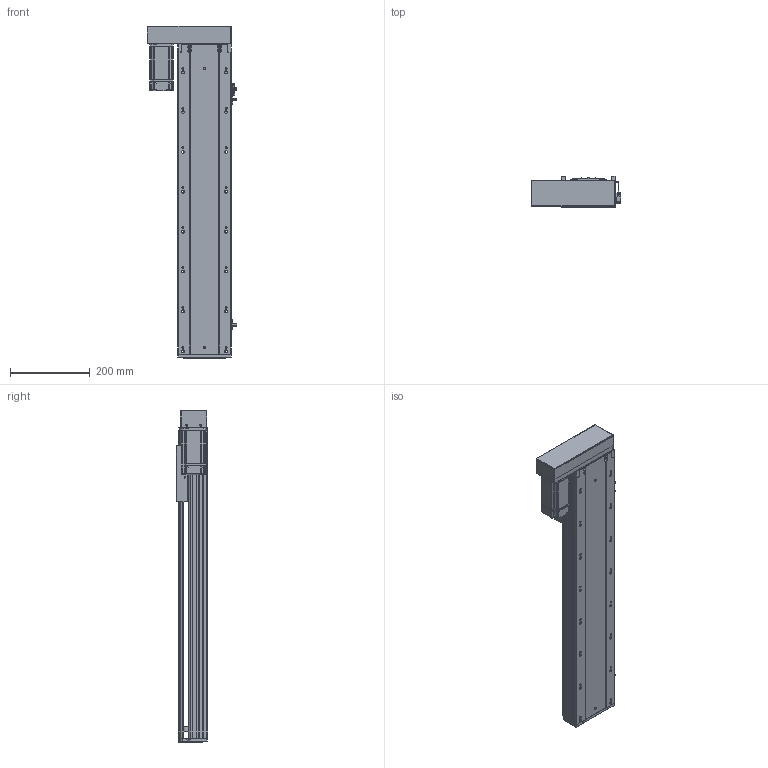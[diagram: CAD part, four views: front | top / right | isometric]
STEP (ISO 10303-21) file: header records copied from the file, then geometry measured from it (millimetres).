
FILE_DESCRIPTION (( 'STEP AP203' ), '1' );
FILE_NAME ('RY140-L1620-300-LK.SLDASM_550.step', '2021-02-22T02:46:30', ( '盈信电脑' ), ( '东莞市道滘镇水果街19号' ), 'SwSTEP 2.0', 'SolidWorks 2012', '' );
FILE_SCHEMA (( 'CONFIG_CONTROL_DESIGN' ));
Length unit declared in the file: millimetre
Products named in the file (14): RY140酘衵殏萇儂欶; RY140-L1620-300-LK.SLDASM_550; 侂狟400W侜督萇儂; RY120外置感应片(140共用）; 15; RY140转折电机端支撑座; RY140蛌殏萇儂假蚾啣; 滅袉蝶18-24; RY140綴裔啣; 覜茼ん672; 滅袉蝶18-10; RY140-300蛌殏倰第奻裔啣-LK_550; RY140-300蛌殏倰第菁釱-LK_550; RY140臏賑輸
Assembly tree (16 placements, depth 3):
  RY140-L1620-300-LK.SLDASM_550
    RY140-300蛌殏倰第菁釱-LK_550
    RY140臏賑輸
    RY140-300蛌殏倰第奻裔啣-LK_550
    RY140綴裔啣
    滅袉蝶18-24  x2
    滅袉蝶18-10
    覜茼ん672  x3
    RY120外置感应片(140共用）
    RY140转折电机端支撑座
    RY140蛌殏萇儂假蚾啣
    侂狟400W侜督萇儂
      15
    RY140酘衵殏萇儂欶
Bounding box: 225.2 x 78 x 833 mm (x, y, z)
Volume: 2922885.8 mm3; surface area: 1053749.9 mm2
Topology: 15 solids, 15 shells, 2299 faces, 6376 edges, 4094 vertices
Faces by surface type: plane 1178, cylinder 846, cone 182, bspline 93
Entity records: 73199 total; most frequent: CARTESIAN_POINT 17865, ORIENTED_EDGE 11480, DIRECTION 10805, EDGE_CURVE 5740, VERTEX_POINT 3762, VECTOR 3661, LINE 3661, AXIS2_PLACEMENT_3D 3572
